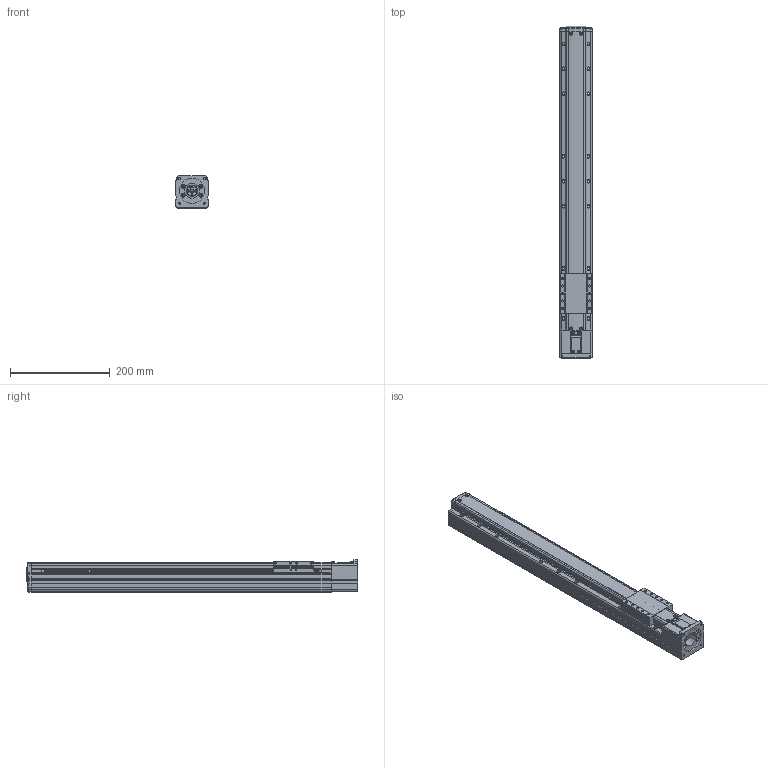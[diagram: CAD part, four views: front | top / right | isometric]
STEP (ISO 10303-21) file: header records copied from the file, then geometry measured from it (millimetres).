
FILE_DESCRIPTION(('STEP AP214'),'1');
FILE_NAME('Z:/Web/3D/PSA65/STP/PSA65-450 (3D)/PSA65ㅁㅁ-450S.stp','2014-06-25T04:52:53',(' '),(' '),'Spatial InterOp 3D',' ',' ');
FILE_SCHEMA(('automotive_design'));
Length unit declared in the file: millimetre
Products named in the file (80): SLIDE; RRCV-PA060; 1; 2; 3; 4; 5; 6; 7; 8; 9; 10; 11; 12; 13; 14; 15; 16; 17; 18; 19; 20; 21; 22; 23; 24; 25; 26; 27; 28; 29; 30; 31; 스크루 : Round - M3.0 x 8.0; RN8 x 0.75; SHAFT-SAN65; BASE; 스크루 : Round - M3.0 x 6.0; MTHZ - PSA65-60A; CPLCV-SAN45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
Bounding box: 65 x 664.8 x 65 mm (x, y, z)
Volume: 2045279.2 mm3; surface area: 290630.8 mm2
Topology: 80 solids, 80 shells, 2372 faces, 6277 edges, 4019 vertices
Faces by surface type: plane 1218, cylinder 764, cone 317, sphere 30, bspline 23, torus 20
Entity records: 95466 total; most frequent: CARTESIAN_POINT 15352, DIRECTION 12889, ORIENTED_EDGE 12310, EDGE_CURVE 6155, AXIS2_PLACEMENT_3D 4494, VERTEX_POINT 4019, LINE 3901, VECTOR 3901
